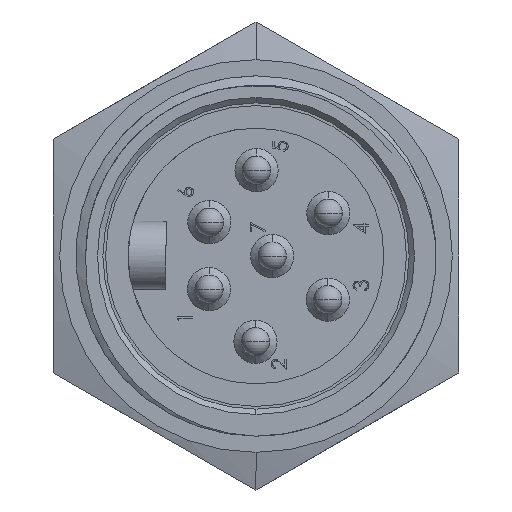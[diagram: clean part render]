
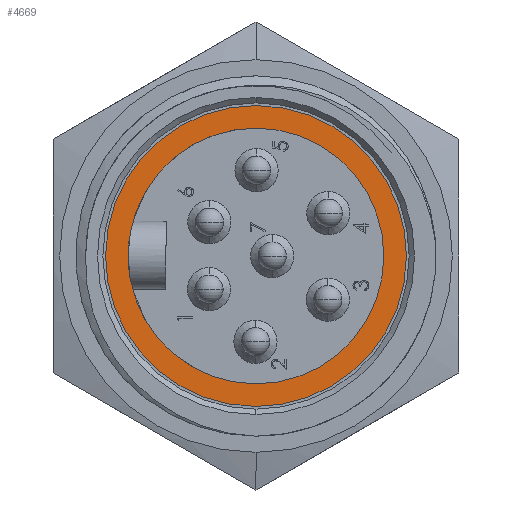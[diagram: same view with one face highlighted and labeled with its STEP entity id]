
A CAD part, left-side view. The second image highlights one B-rep face of the part: STEP entity #4669.
In plain terms, the highlighted planar face has unit normal (-1, 0, 0).
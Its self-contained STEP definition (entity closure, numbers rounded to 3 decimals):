
#1709 = VERTEX_POINT ( 'NONE', #8566 ) ;
#1717 = VERTEX_POINT ( 'NONE', #8574 ) ;
#2550 = CARTESIAN_POINT ( 'NONE',  ( 1.524, 0., 0. ) ) ;
#2551 = DIRECTION ( 'NONE',  ( -1., 0., 0. ) ) ;
#2552 = DIRECTION ( 'NONE',  ( 0., -0.006, 1. ) ) ;
#3617 = CARTESIAN_POINT ( 'NONE',  ( 1.524, 0., 0. ) ) ;
#3618 = DIRECTION ( 'NONE',  ( -1., 0., 0. ) ) ;
#3619 = DIRECTION ( 'NONE',  ( 0., -0.006, 1. ) ) ;
#3661 = CARTESIAN_POINT ( 'NONE',  ( 1.524, -0.066, 10.604 ) ) ;
#3665 = CARTESIAN_POINT ( 'NONE',  ( 1.524, 0.066, -10.604 ) ) ;
#4669 = ADVANCED_FACE ( 'NONE', ( #15755, #15740 ), #15757, .F. ) ;
#7359 = CIRCLE ( 'NONE', #7365, 10.605 ) ;
#7365 = AXIS2_PLACEMENT_3D ( 'NONE', #2550, #2551, #2552 ) ;
#7507 = EDGE_CURVE ( 'NONE', #1717, #1709, #9520, .T. ) ;
#8566 = CARTESIAN_POINT ( 'NONE',  ( 1.524, -0.056, 9.017 ) ) ;
#8574 = CARTESIAN_POINT ( 'NONE',  ( 1.524, 0.056, -9.017 ) ) ;
#8818 = EDGE_CURVE ( 'NONE', #12307, #12311, #7359, .T. ) ;
#9145 = CIRCLE ( 'NONE', #9147, 9.017 ) ;
#9147 = AXIS2_PLACEMENT_3D ( 'NONE', #19221, #19222, #19223 ) ;
#9520 = CIRCLE ( 'NONE', #9524, 9.017 ) ;
#9524 = AXIS2_PLACEMENT_3D ( 'NONE', #14922, #14923, #14924 ) ;
#10344 = AXIS2_PLACEMENT_3D ( 'NONE', #15766, #15767, #15768 ) ;
#10458 = EDGE_CURVE ( 'NONE', #12311, #12307, #18376, .T. ) ;
#12034 = ORIENTED_EDGE ( 'NONE', *, *, #10458, .T. ) ;
#12036 = ORIENTED_EDGE ( 'NONE', *, *, #8818, .T. ) ;
#12037 = ORIENTED_EDGE ( 'NONE', *, *, #7507, .F. ) ;
#12039 = ORIENTED_EDGE ( 'NONE', *, *, #18625, .F. ) ;
#12307 = VERTEX_POINT ( 'NONE', #3661 ) ;
#12311 = VERTEX_POINT ( 'NONE', #3665 ) ;
#13341 = EDGE_LOOP ( 'NONE', ( #12036, #12034 ) ) ;
#13373 = EDGE_LOOP ( 'NONE', ( #12039, #12037 ) ) ;
#14922 = CARTESIAN_POINT ( 'NONE',  ( 1.524, 0., 0. ) ) ;
#14923 = DIRECTION ( 'NONE',  ( -1., 0., 0. ) ) ;
#14924 = DIRECTION ( 'NONE',  ( 0., -0.006, 1. ) ) ;
#15740 = FACE_OUTER_BOUND ( 'NONE', #13341, .T. ) ;
#15755 = FACE_BOUND ( 'NONE', #13373, .T. ) ;
#15757 = PLANE ( 'NONE',  #10344 ) ;
#15766 = CARTESIAN_POINT ( 'NONE',  ( 1.524, 9.017, 0.056 ) ) ;
#15767 = DIRECTION ( 'NONE',  ( 1., 0., 0. ) ) ;
#15768 = DIRECTION ( 'NONE',  ( 0., 0.006, -1. ) ) ;
#18376 = CIRCLE ( 'NONE', #18378, 10.605 ) ;
#18378 = AXIS2_PLACEMENT_3D ( 'NONE', #3617, #3618, #3619 ) ;
#18625 = EDGE_CURVE ( 'NONE', #1709, #1717, #9145, .T. ) ;
#19221 = CARTESIAN_POINT ( 'NONE',  ( 1.524, 0., 0. ) ) ;
#19222 = DIRECTION ( 'NONE',  ( -1., 0., 0. ) ) ;
#19223 = DIRECTION ( 'NONE',  ( 0., -0.006, 1. ) ) ;
